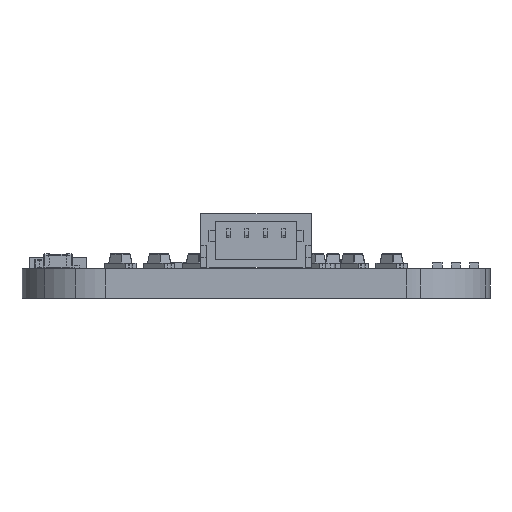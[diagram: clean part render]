
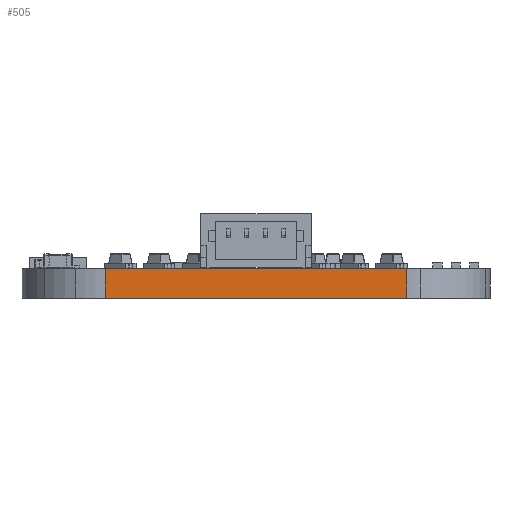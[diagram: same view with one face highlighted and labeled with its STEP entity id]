
A CAD part, left-side view. The second image highlights one B-rep face of the part: STEP entity #505.
In plain terms, the highlighted planar face has unit normal (-1, 0, 0).
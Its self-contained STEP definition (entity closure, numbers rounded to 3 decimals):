
#505 = ADVANCED_FACE('',(#506),#540,.F.);
#506 = FACE_BOUND('',#507,.F.);
#507 = EDGE_LOOP('',(#508,#518,#526,#534));
#508 = ORIENTED_EDGE('',*,*,#509,.T.);
#509 = EDGE_CURVE('',#510,#512,#514,.T.);
#510 = VERTEX_POINT('',#511);
#511 = CARTESIAN_POINT('',(0.,20.86,0.));
#512 = VERTEX_POINT('',#513);
#513 = CARTESIAN_POINT('',(0.,20.86,1.606));
#514 = LINE('',#515,#516);
#515 = CARTESIAN_POINT('',(0.,20.86,0.));
#516 = VECTOR('',#517,1.);
#517 = DIRECTION('',(0.,0.,1.));
#518 = ORIENTED_EDGE('',*,*,#519,.T.);
#519 = EDGE_CURVE('',#512,#520,#522,.T.);
#520 = VERTEX_POINT('',#521);
#521 = CARTESIAN_POINT('',(0.,4.5,1.606));
#522 = LINE('',#523,#524);
#523 = CARTESIAN_POINT('',(0.,20.86,1.606));
#524 = VECTOR('',#525,1.);
#525 = DIRECTION('',(0.,-1.,0.));
#526 = ORIENTED_EDGE('',*,*,#527,.F.);
#527 = EDGE_CURVE('',#528,#520,#530,.T.);
#528 = VERTEX_POINT('',#529);
#529 = CARTESIAN_POINT('',(0.,4.5,0.));
#530 = LINE('',#531,#532);
#531 = CARTESIAN_POINT('',(0.,4.5,0.));
#532 = VECTOR('',#533,1.);
#533 = DIRECTION('',(0.,0.,1.));
#534 = ORIENTED_EDGE('',*,*,#535,.F.);
#535 = EDGE_CURVE('',#510,#528,#536,.T.);
#536 = LINE('',#537,#538);
#537 = CARTESIAN_POINT('',(0.,20.86,0.));
#538 = VECTOR('',#539,1.);
#539 = DIRECTION('',(0.,-1.,0.));
#540 = PLANE('',#541);
#541 = AXIS2_PLACEMENT_3D('',#542,#543,#544);
#542 = CARTESIAN_POINT('',(0.,20.86,0.));
#543 = DIRECTION('',(1.,0.,-0.));
#544 = DIRECTION('',(0.,-1.,0.));
